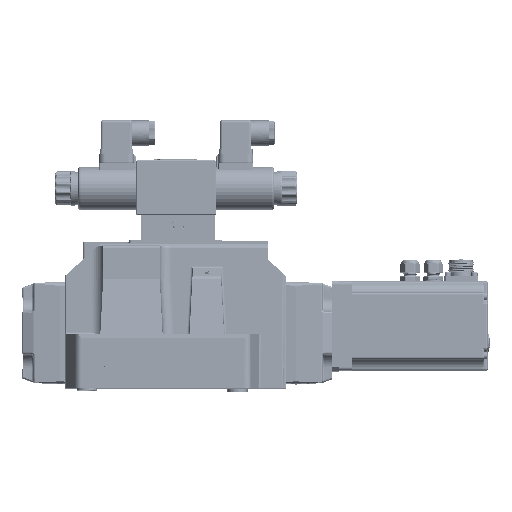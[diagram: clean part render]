
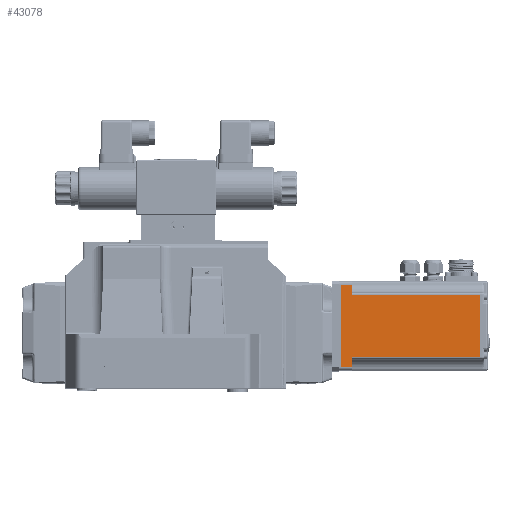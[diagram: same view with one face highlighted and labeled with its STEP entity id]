
A CAD part, top view. The second image highlights one B-rep face of the part: STEP entity #43078.
In plain terms, the highlighted planar face has unit normal (0, 0.009, 1).
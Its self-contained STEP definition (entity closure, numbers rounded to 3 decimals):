
#25586=LINE('',#325141,#32008);
#25587=LINE('',#325144,#32009);
#25588=LINE('',#325146,#32010);
#25589=LINE('',#325148,#32011);
#25590=LINE('',#325150,#32012);
#25591=LINE('',#325152,#32013);
#25592=LINE('',#325154,#32014);
#25593=LINE('',#325156,#32015);
#32008=VECTOR('',#132695,1.);
#32009=VECTOR('',#132696,1.);
#32010=VECTOR('',#132697,1.);
#32011=VECTOR('',#132698,1.);
#32012=VECTOR('',#132699,1.);
#32013=VECTOR('',#132700,1.);
#32014=VECTOR('',#132701,1.);
#32015=VECTOR('',#132702,1.);
#36361=PLANE('',#112539);
#43078=ADVANCED_FACE('',(#48831),#36361,.F.);
#48831=FACE_OUTER_BOUND('',#54835,.T.);
#54835=EDGE_LOOP('',(#80486,#80487,#80488,#80489,#80490,#80491,#80492,#80493));
#80486=ORIENTED_EDGE('',*,*,#102078,.T.);
#80487=ORIENTED_EDGE('',*,*,#102079,.T.);
#80488=ORIENTED_EDGE('',*,*,#102080,.T.);
#80489=ORIENTED_EDGE('',*,*,#102081,.F.);
#80490=ORIENTED_EDGE('',*,*,#102082,.F.);
#80491=ORIENTED_EDGE('',*,*,#102083,.T.);
#80492=ORIENTED_EDGE('',*,*,#102084,.T.);
#80493=ORIENTED_EDGE('',*,*,#102085,.T.);
#90033=VERTEX_POINT('',#325142);
#90034=VERTEX_POINT('',#325143);
#90035=VERTEX_POINT('',#325145);
#90036=VERTEX_POINT('',#325147);
#90037=VERTEX_POINT('',#325149);
#90038=VERTEX_POINT('',#325151);
#90039=VERTEX_POINT('',#325153);
#90040=VERTEX_POINT('',#325155);
#102078=EDGE_CURVE('',#90033,#90034,#25586,.T.);
#102079=EDGE_CURVE('',#90034,#90035,#25587,.T.);
#102080=EDGE_CURVE('',#90035,#90036,#25588,.T.);
#102081=EDGE_CURVE('',#90037,#90036,#25589,.T.);
#102082=EDGE_CURVE('',#90038,#90037,#25590,.T.);
#102083=EDGE_CURVE('',#90038,#90039,#25591,.T.);
#102084=EDGE_CURVE('',#90039,#90040,#25592,.T.);
#102085=EDGE_CURVE('',#90040,#90033,#25593,.T.);
#112539=AXIS2_PLACEMENT_3D('',#325157,#132703,#132704);
#132695=DIRECTION('',(0.,1.,-0.009));
#132696=DIRECTION('',(-1.,0.,0.));
#132697=DIRECTION('',(0.,1.,-0.009));
#132698=DIRECTION('',(1.,0.,0.));
#132699=DIRECTION('',(0.,1.,-0.009));
#132700=DIRECTION('',(1.,0.,0.));
#132701=DIRECTION('',(0.,1.,-0.009));
#132702=DIRECTION('',(1.,0.,0.));
#132703=DIRECTION('',(0.,-0.009,-1.));
#132704=DIRECTION('',(0.,-1.,0.009));
#325141=CARTESIAN_POINT('',(209.98,6.691,227.35));
#325142=CARTESIAN_POINT('',(209.98,-55.817,227.896));
#325143=CARTESIAN_POINT('',(209.98,-1.798,227.425));
#325144=CARTESIAN_POINT('',(99.98,-1.798,227.425));
#325145=CARTESIAN_POINT('',(99.98,-1.798,227.425));
#325146=CARTESIAN_POINT('',(99.98,6.691,227.35));
#325147=CARTESIAN_POINT('',(99.98,6.691,227.35));
#325148=CARTESIAN_POINT('',(89.98,6.691,227.35));
#325149=CARTESIAN_POINT('',(89.98,6.691,227.35));
#325150=CARTESIAN_POINT('',(89.98,6.691,227.35));
#325151=CARTESIAN_POINT('',(89.98,-64.306,227.97));
#325152=CARTESIAN_POINT('',(89.98,-64.306,227.97));
#325153=CARTESIAN_POINT('',(99.98,-64.306,227.97));
#325154=CARTESIAN_POINT('',(99.98,6.691,227.35));
#325155=CARTESIAN_POINT('',(99.98,-55.817,227.896));
#325156=CARTESIAN_POINT('',(89.98,-55.817,227.896));
#325157=CARTESIAN_POINT('',(89.98,6.691,227.35));
